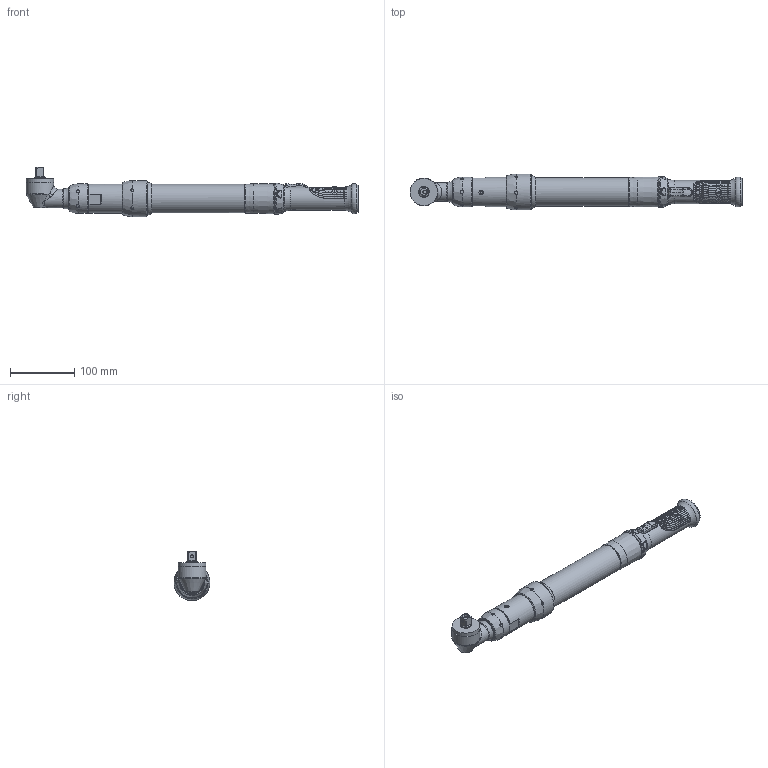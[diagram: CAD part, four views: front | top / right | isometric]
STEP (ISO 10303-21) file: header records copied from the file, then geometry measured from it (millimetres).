
FILE_DESCRIPTION(/* description */ (''),/* implementation_level */ '2;1');
FILE_NAME(/* name */ 'QE8AT065PA5S08',/* time_stamp */ '2014-09-12T09:55:25+05:00',/* author */ (''),/* organization */ (''),/* preprocessor_version */ 'ST-DEVELOPER v9',/* originating_system */ 'UGS - NX 4.0',/* authorisation */ '');
FILE_SCHEMA (('CONFIG_CONTROL_DESIGN'));
Length unit declared in the file: millimetre
Products named in the file (1): NHBA9E15rqzy
Bounding box: 515.86 x 55.84 x 76.65 mm (x, y, z)
Volume: 764939.5 mm3; surface area: 79897.6 mm2
Topology: 1 solids, 4 shells, 708 faces, 1900 edges, 1240 vertices
Faces by surface type: extrusion 218, cylinder 183, cone 99, plane 95, bspline 61, torus 51, sphere 1
Full cylindrical faces by diameter (mm): 3.175 x1, 4.369 x1, 4.826 x1, 4.978 x12, 5.601 x1, 6.731 x1, 16.599 x1, 36.068 x1, 41.859 x1, 42.672 x1, 42.799 x1, 43.129 x1, 44.45 x1, 44.493 x1, 45.415 x1, 45.974 x1, 48.514 x1, 50.292 x1, 55.88 x1
Entity records: 59561 total; most frequent: CARTESIAN_POINT 44035, ORIENTED_EDGE 3576, DIRECTION 2394, EDGE_CURVE 1788, VERTEX_POINT 1196, B_SPLINE_CURVE_WITH_KNOTS 1161, AXIS2_PLACEMENT_3D 914, EDGE_LOOP 824
